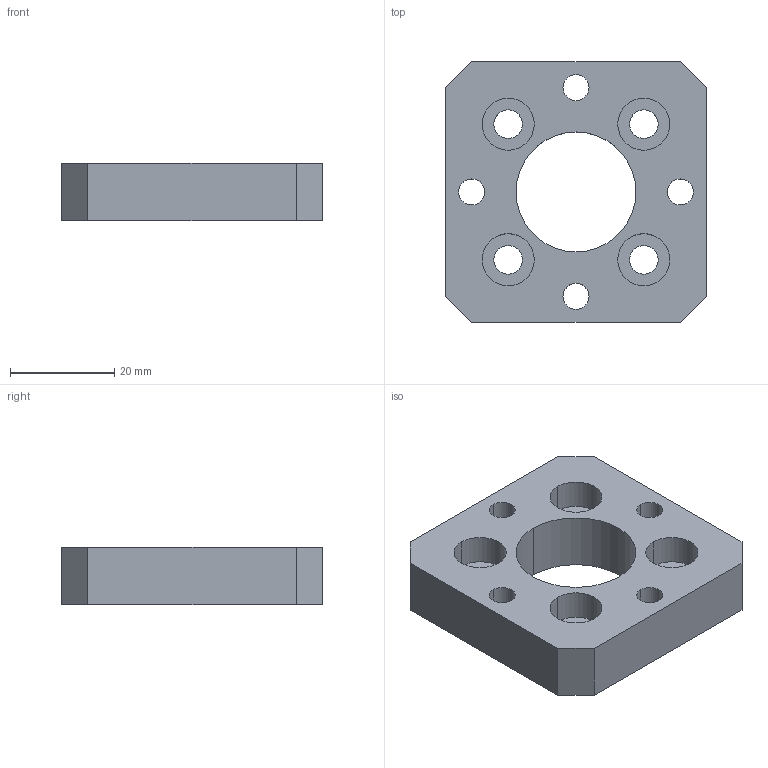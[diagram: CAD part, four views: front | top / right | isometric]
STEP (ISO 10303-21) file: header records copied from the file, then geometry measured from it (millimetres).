
FILE_DESCRIPTION (( 'STEP AP203' ), '1' );
FILE_NAME ('JD150707-01-08.step', '2026-06-30T11:40:38', ( '' ), ( '' ), 'SwSTEP 2.0', 'SolidWorks 2024', '' );
FILE_SCHEMA (( 'CONFIG_CONTROL_DESIGN' ));
Length unit declared in the file: millimetre
Products named in the file (1): JD150707-01-08
Bounding box: 50 x 50 x 11 mm (x, y, z)
Volume: 19221.4 mm3; surface area: 8361.6 mm2
Topology: 1 solids, 1 shells, 40 faces, 102 edges, 68 vertices
Faces by surface type: cylinder 26, plane 14
Entity records: 1351 total; most frequent: DIRECTION 236, CARTESIAN_POINT 211, ORIENTED_EDGE 204, EDGE_CURVE 102, AXIS2_PLACEMENT_3D 93, VERTEX_POINT 68, EDGE_LOOP 62, CIRCLE 52
